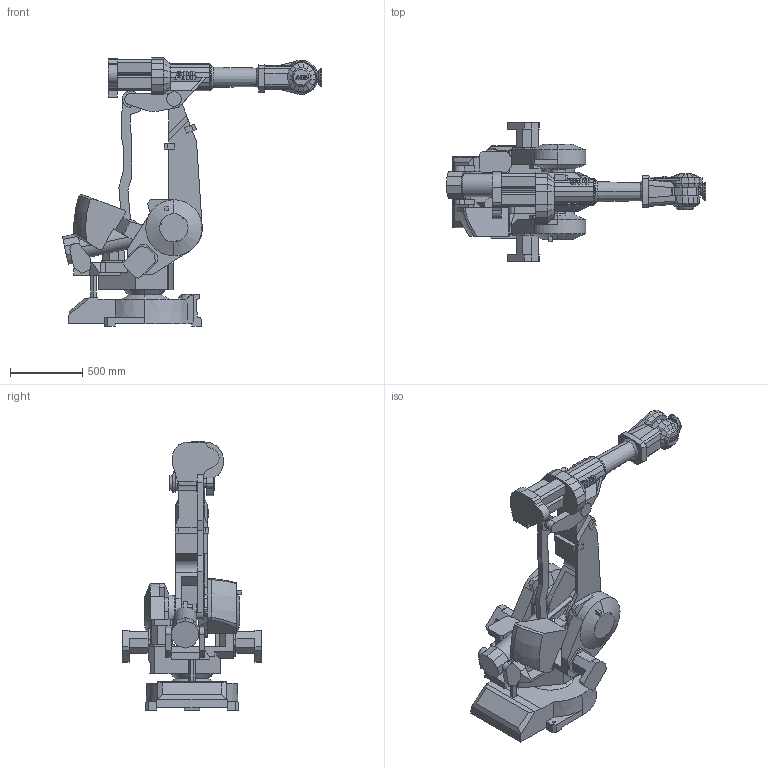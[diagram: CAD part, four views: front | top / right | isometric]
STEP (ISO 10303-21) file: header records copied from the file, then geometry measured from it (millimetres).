
FILE_DESCRIPTION (( 'STEP AP214' ), '1' );
FILE_NAME ('IRB4400_60_m2000_rev1_01.STEP', '2001-11-20T14:52:32', ( 'Jonas Eriksson' ), ( 'Evotech Engineering AB' ), 'SwSTEP 2.0', 'SolidWorks 2001287', '' );
FILE_SCHEMA (( 'AUTOMOTIVE_DESIGN' ));
Length unit declared in the file: millimetre
Products named in the file (18): IRB4400_60_m2000_rev1_01; IRB4400_60_m2000_rev1_01-10; IRB4400_60_m2000_rev1_01-5; IRB4400_60_m2000_rev1_01-13; IRB4400_60_m2000_rev1_01-9; IRB4400_60_m2000_rev1_01-15; IRB4400_60_m2000_rev1_01-11; IRB4400_60_m2000_rev1_01-4; IRB4400_60_m2000_rev1_01-7; IRB4400_60_m2000_rev1_01-16; IRB4400_60_m2000_rev1_01-2; IRB4400_60_m2000_rev1_01-1; IRB4400_60_m2000_rev1_01-12; IRB4400_60_m2000_rev1_01-6; IRB4400_60_m2000_rev1_01-17; IRB4400_60_m2000_rev1_01-14; IRB4400_60_m2000_rev1_01-8; IRB4400_60_m2000_rev1_01-3
Assembly tree (17 placements, depth 2):
  IRB4400_60_m2000_rev1_01
    IRB4400_60_m2000_rev1_01-14
    IRB4400_60_m2000_rev1_01-4
    IRB4400_60_m2000_rev1_01-17
    IRB4400_60_m2000_rev1_01-5
    IRB4400_60_m2000_rev1_01-15
    IRB4400_60_m2000_rev1_01-2
    IRB4400_60_m2000_rev1_01-11
    IRB4400_60_m2000_rev1_01-6
    IRB4400_60_m2000_rev1_01-10
    IRB4400_60_m2000_rev1_01-9
    IRB4400_60_m2000_rev1_01-3
    IRB4400_60_m2000_rev1_01-16
    IRB4400_60_m2000_rev1_01-12
    IRB4400_60_m2000_rev1_01-13
    IRB4400_60_m2000_rev1_01-7
    IRB4400_60_m2000_rev1_01-1
    IRB4400_60_m2000_rev1_01-8
Bounding box: 1789.8 x 958.6 x 1855 mm (x, y, z)
Volume: 297521063.5 mm3; surface area: 8339067 mm2
Topology: 17 solids, 17 shells, 1450 faces, 3940 edges, 2562 vertices
Faces by surface type: plane 1310, cylinder 83, cone 35, bspline 21, torus 1
Entity records: 46637 total; most frequent: CARTESIAN_POINT 9604, ORIENTED_EDGE 7876, DIRECTION 7008, EDGE_CURVE 3938, VECTOR 3618, LINE 3618, VERTEX_POINT 2562, AXIS2_PLACEMENT_3D 1695
